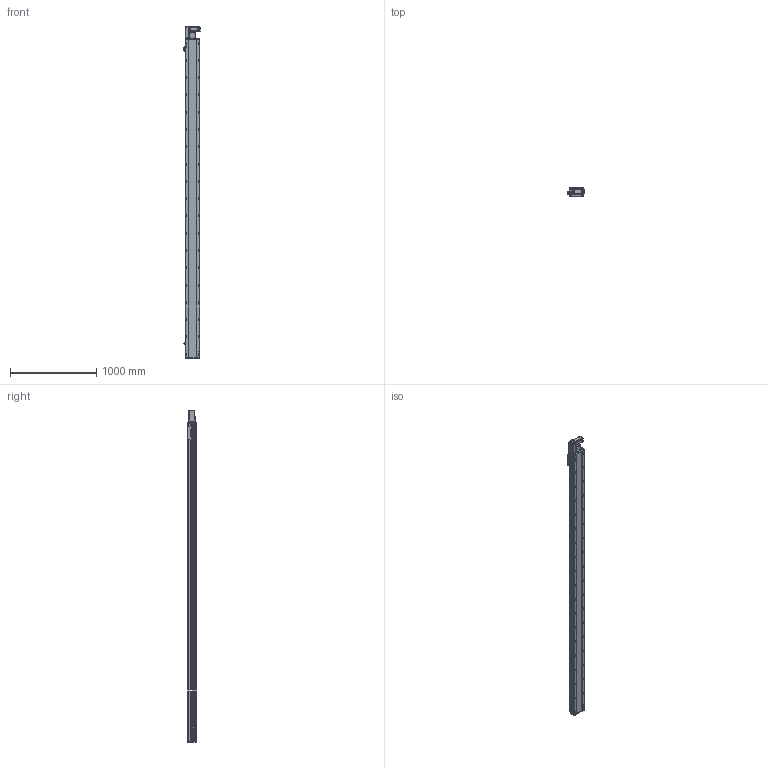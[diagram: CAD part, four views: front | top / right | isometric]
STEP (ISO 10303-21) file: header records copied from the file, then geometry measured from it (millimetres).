
FILE_DESCRIPTION (( 'STEP AP214' ), '1' );
FILE_NAME ('RTB17S-XX-3400-L-M40-C4.STEP', '2025-12-11T06:08:11', ( '' ), ( '' ), 'SwSTEP 2.0', 'SolidWorks 2018', '' );
FILE_SCHEMA (( 'AUTOMOTIVE_DESIGN' ));
Length unit declared in the file: millimetre
Products named in the file (14): RTB17S-L-007奻裔^RTB17S-XX-XX-L-M40-C4; RTB17S-L-004佪裝蹟譫蟀諉釱^RTB17S-XX-XX-L-M40-C4; RTB14-L-017P^RTB17S-L-々湍釱蚾饜-400W_RTB17S-XX-XX-L-M40-C4; RMP17S-L-014-T20--々湍釱^RTB17S-L-々湍釱蚾饜-400W_RTB17S-XX-XX-L-M40-C4; RTB14-L-018P^RTB17S-L-々湍釱蚾饜-400W_RTB17S-XX-XX-L-M40-C4; RTB17S-L-001耜醱啣^RTB17S-XX-XX-L-M40-C4; RTB17-R-011菁釱^RTB17S-XX-XX-L-M40-C4; OMRON EE-SX672 传感器^RTB17S-XX-XX-L-M40-C4; RTB17S-L-々湍釱蚾饜-400W^RTB17S-XX-XX-L-M40-C4; RTB14-L-008-M20--萇儂啣^RTB17S-L-々湍釱蚾饜-400W_RTB17S-XX-XX-L-M40-C4; RTB14-L-005P--轴承塑胶压盖^RTB17S-L-皮带座装配-400W_RTB17S-XX-XX-L-M40-C4; 400W侜督萇儂^RTB17S-XX-XX-L-M40-C4; RTB17S-XX-3400-L-M40-C4; RTH13-BL-012覜茼え俋离^RTB17S-XX-XX-L-M40-C4
Assembly tree (16 placements, depth 3):
  RTB17S-XX-3400-L-M40-C4
    RTB17-R-011菁釱^RTB17S-XX-XX-L-M40-C4
    RTB17S-L-007奻裔^RTB17S-XX-XX-L-M40-C4
    OMRON EE-SX672 传感器^RTB17S-XX-XX-L-M40-C4  x3
    RTB17S-L-001耜醱啣^RTB17S-XX-XX-L-M40-C4
    400W侜督萇儂^RTB17S-XX-XX-L-M40-C4
    RTB17S-L-004佪裝蹟譫蟀諉釱^RTB17S-XX-XX-L-M40-C4
    RTH13-BL-012覜茼え俋离^RTB17S-XX-XX-L-M40-C4
    RTB17S-L-々湍釱蚾饜-400W^RTB17S-XX-XX-L-M40-C4
      RMP17S-L-014-T20--々湍釱^RTB17S-L-々湍釱蚾饜-400W_RTB17S-XX-XX-L-M40-C4
      RTB14-L-005P--轴承塑胶压盖^RTB17S-L-皮带座装配-400W_RTB17S-XX-XX-L-M40-C4
      RTB14-L-008-M20--萇儂啣^RTB17S-L-々湍釱蚾饜-400W_RTB17S-XX-XX-L-M40-C4
      RTB14-L-017P^RTB17S-L-々湍釱蚾饜-400W_RTB17S-XX-XX-L-M40-C4  x2
      RTB14-L-018P^RTB17S-L-々湍釱蚾饜-400W_RTB17S-XX-XX-L-M40-C4
Bounding box: 186 x 108 x 3841 mm (x, y, z)
Volume: 31948757.7 mm3; surface area: 3631464.8 mm2
Topology: 15 solids, 15 shells, 2397 faces, 6735 edges, 4401 vertices
Faces by surface type: plane 1092, cylinder 857, bspline 301, cone 139, torus 8
Entity records: 71849 total; most frequent: CARTESIAN_POINT 20540, ORIENTED_EDGE 10314, DIRECTION 9476, EDGE_CURVE 5157, VERTEX_POINT 3389, AXIS2_PLACEMENT_3D 3319, VECTOR 2838, LINE 2838
